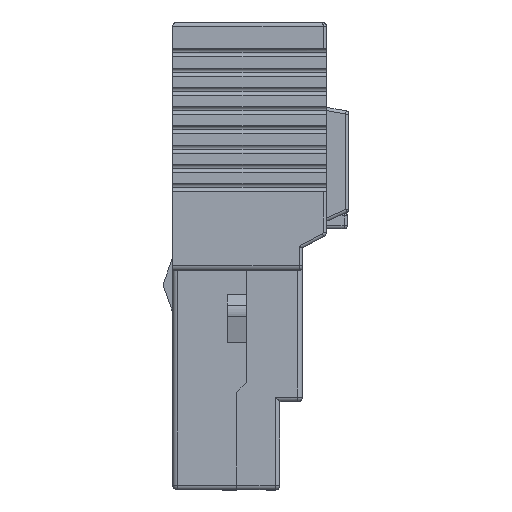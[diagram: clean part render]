
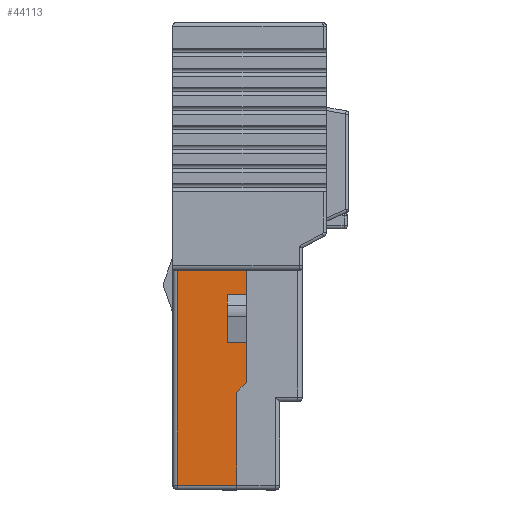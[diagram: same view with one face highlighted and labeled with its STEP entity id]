
A CAD part, left-side view. The second image highlights one B-rep face of the part: STEP entity #44113.
In plain terms, the highlighted planar face has unit normal (-1, 0, 0) as drawn and (1, 0, 0) by its records, which use the part's own axes.
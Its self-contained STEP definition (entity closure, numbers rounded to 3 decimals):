
#262 = EDGE_LOOP ( 'NONE', ( #47841, #21895, #18718, #39922, #46709, #2731, #2430, #46677, #40984, #20650 ) ) ;
#1032 = EDGE_CURVE ( 'NONE', #18233, #35319, #19111, .T. ) ;
#1079 = VERTEX_POINT ( 'NONE', #6607 ) ;
#1348 = CARTESIAN_POINT ( 'NONE',  ( 20.9, -5., 4. ) ) ;
#1669 = CARTESIAN_POINT ( 'NONE',  ( 20.9, -2., 5.2 ) ) ;
#2430 = ORIENTED_EDGE ( 'NONE', *, *, #49127, .F. ) ;
#2731 = ORIENTED_EDGE ( 'NONE', *, *, #24184, .F. ) ;
#3265 = DIRECTION ( 'NONE',  ( 0., 1., 0. ) ) ;
#3344 = CARTESIAN_POINT ( 'NONE',  ( 20.9, -2., 4. ) ) ;
#3416 = EDGE_CURVE ( 'NONE', #18233, #5153, #21972, .T. ) ;
#4189 = VECTOR ( 'NONE', #22176, 1000. ) ;
#4223 = PLANE ( 'NONE',  #21216 ) ;
#4266 = DIRECTION ( 'NONE',  ( 0., -1., 0. ) ) ;
#4491 = VERTEX_POINT ( 'NONE', #1348 ) ;
#4753 = LINE ( 'NONE', #44494, #13313 ) ;
#5153 = VERTEX_POINT ( 'NONE', #1669 ) ;
#6607 = CARTESIAN_POINT ( 'NONE',  ( 20.9, -13.9, 8.3 ) ) ;
#6718 = VECTOR ( 'NONE', #4266, 1000. ) ;
#6772 = VECTOR ( 'NONE', #37849, 1000. ) ;
#6782 = EDGE_CURVE ( 'NONE', #17416, #14027, #28026, .T. ) ;
#8386 = CARTESIAN_POINT ( 'NONE',  ( 20.9, -14., 4.6 ) ) ;
#8592 = VECTOR ( 'NONE', #3265, 1000. ) ;
#8617 = DIRECTION ( 'NONE',  ( 0., 0., -1. ) ) ;
#8972 = LINE ( 'NONE', #34493, #34179 ) ;
#9347 = VECTOR ( 'NONE', #32481, 1000. ) ;
#10434 = VECTOR ( 'NONE', #11847, 1000. ) ;
#11847 = DIRECTION ( 'NONE',  ( 0., 0.707, -0.707 ) ) ;
#13313 = VECTOR ( 'NONE', #8617, 1000. ) ;
#13794 = DIRECTION ( 'NONE',  ( 0., 0., 1. ) ) ;
#14027 = VERTEX_POINT ( 'NONE', #27209 ) ;
#15912 = EDGE_CURVE ( 'NONE', #41385, #1079, #8972, .T. ) ;
#15973 = DIRECTION ( 'NONE',  ( 0., 1., 0. ) ) ;
#16009 = VECTOR ( 'NONE', #13794, 1000. ) ;
#16013 = CARTESIAN_POINT ( 'NONE',  ( 20.9, -0.5, 8.3 ) ) ;
#16246 = VERTEX_POINT ( 'NONE', #41362 ) ;
#17416 = VERTEX_POINT ( 'NONE', #30617 ) ;
#18233 = VERTEX_POINT ( 'NONE', #3344 ) ;
#18718 = ORIENTED_EDGE ( 'NONE', *, *, #35556, .F. ) ;
#19111 = LINE ( 'NONE', #42475, #8592 ) ;
#20033 = VECTOR ( 'NONE', #23389, 1000. ) ;
#20650 = ORIENTED_EDGE ( 'NONE', *, *, #22971, .T. ) ;
#21216 = AXIS2_PLACEMENT_3D ( 'NONE', #27289, #50628, #15973 ) ;
#21895 = ORIENTED_EDGE ( 'NONE', *, *, #50484, .T. ) ;
#21972 = LINE ( 'NONE', #37629, #16009 ) ;
#22176 = DIRECTION ( 'NONE',  ( 0., -1., 0. ) ) ;
#22912 = DIRECTION ( 'NONE',  ( 0., -1., 0. ) ) ;
#22971 = EDGE_CURVE ( 'NONE', #35319, #41385, #34524, .T. ) ;
#23389 = DIRECTION ( 'NONE',  ( 0., 0., -1. ) ) ;
#24184 = EDGE_CURVE ( 'NONE', #47196, #4491, #43413, .T. ) ;
#24778 = CARTESIAN_POINT ( 'NONE',  ( 20.9, -14., 4. ) ) ;
#25542 = LINE ( 'NONE', #26033, #4189 ) ;
#26033 = CARTESIAN_POINT ( 'NONE',  ( 20.9, -2., 5.2 ) ) ;
#27209 = CARTESIAN_POINT ( 'NONE',  ( 20.9, -7.5, 4. ) ) ;
#27289 = CARTESIAN_POINT ( 'NONE',  ( 20.9, 0., 0. ) ) ;
#28026 = LINE ( 'NONE', #43665, #10434 ) ;
#28629 = LINE ( 'NONE', #24778, #9347 ) ;
#30406 = CARTESIAN_POINT ( 'NONE',  ( 20.9, -0.5, 4. ) ) ;
#30617 = CARTESIAN_POINT ( 'NONE',  ( 20.9, -8.1, 4.6 ) ) ;
#31912 = FACE_OUTER_BOUND ( 'NONE', #262, .T. ) ;
#32481 = DIRECTION ( 'NONE',  ( 0., 1., 0. ) ) ;
#33290 = CARTESIAN_POINT ( 'NONE',  ( 20.9, -0.5, 4. ) ) ;
#34179 = VECTOR ( 'NONE', #22912, 1000. ) ;
#34493 = CARTESIAN_POINT ( 'NONE',  ( 20.9, -14.2, 8.3 ) ) ;
#34524 = LINE ( 'NONE', #30406, #6772 ) ;
#35319 = VERTEX_POINT ( 'NONE', #33290 ) ;
#35482 = CARTESIAN_POINT ( 'NONE',  ( 20.9, -5., 4. ) ) ;
#35556 = EDGE_CURVE ( 'NONE', #17416, #16246, #43224, .T. ) ;
#36033 = CARTESIAN_POINT ( 'NONE',  ( 20.9, -5., 5.2 ) ) ;
#37000 = EDGE_CURVE ( 'NONE', #14027, #4491, #28629, .T. ) ;
#37629 = CARTESIAN_POINT ( 'NONE',  ( 20.9, -2., 4. ) ) ;
#37849 = DIRECTION ( 'NONE',  ( 0., 0., 1. ) ) ;
#39922 = ORIENTED_EDGE ( 'NONE', *, *, #6782, .T. ) ;
#40984 = ORIENTED_EDGE ( 'NONE', *, *, #1032, .T. ) ;
#41362 = CARTESIAN_POINT ( 'NONE',  ( 20.9, -13.9, 4.6 ) ) ;
#41385 = VERTEX_POINT ( 'NONE', #16013 ) ;
#42475 = CARTESIAN_POINT ( 'NONE',  ( 20.9, -14., 4. ) ) ;
#43224 = LINE ( 'NONE', #8386, #6718 ) ;
#43413 = LINE ( 'NONE', #35482, #20033 ) ;
#43665 = CARTESIAN_POINT ( 'NONE',  ( 20.9, -1.75, -1.75 ) ) ;
#44113 = ADVANCED_FACE ( 'NONE', ( #31912 ), #4223, .T. ) ;
#44494 = CARTESIAN_POINT ( 'NONE',  ( 20.9, -13.9, 0. ) ) ;
#46677 = ORIENTED_EDGE ( 'NONE', *, *, #3416, .F. ) ;
#46709 = ORIENTED_EDGE ( 'NONE', *, *, #37000, .T. ) ;
#47196 = VERTEX_POINT ( 'NONE', #36033 ) ;
#47841 = ORIENTED_EDGE ( 'NONE', *, *, #15912, .T. ) ;
#49127 = EDGE_CURVE ( 'NONE', #5153, #47196, #25542, .T. ) ;
#50484 = EDGE_CURVE ( 'NONE', #1079, #16246, #4753, .T. ) ;
#50628 = DIRECTION ( 'NONE',  ( 1., 0., 0. ) ) ;
